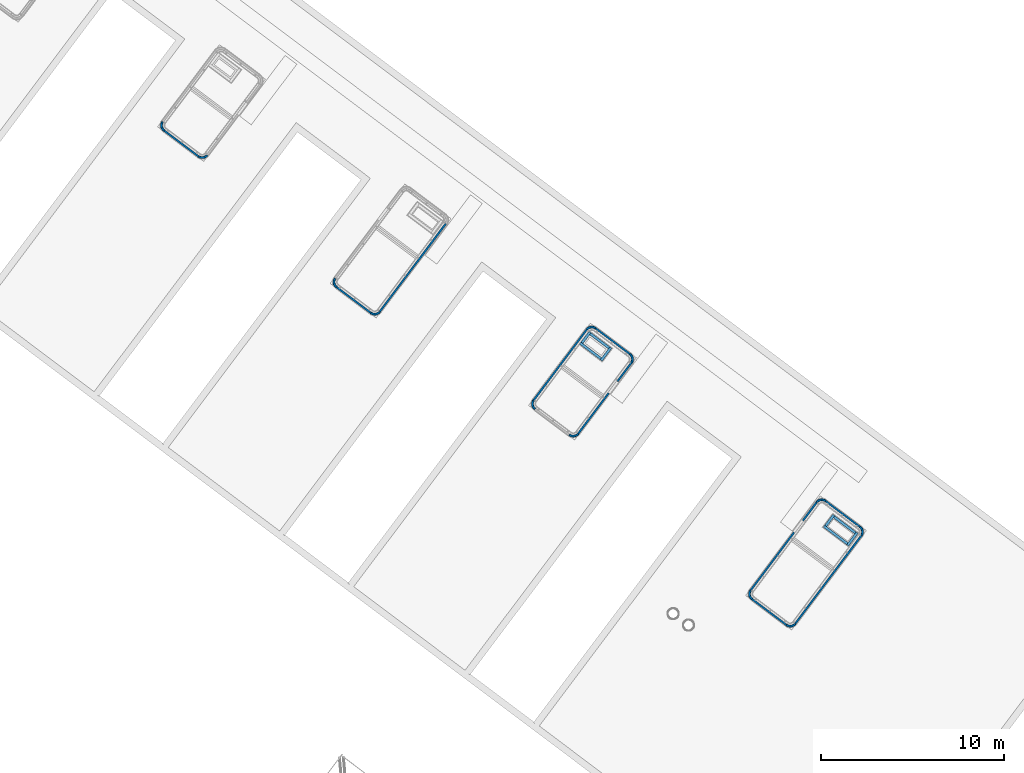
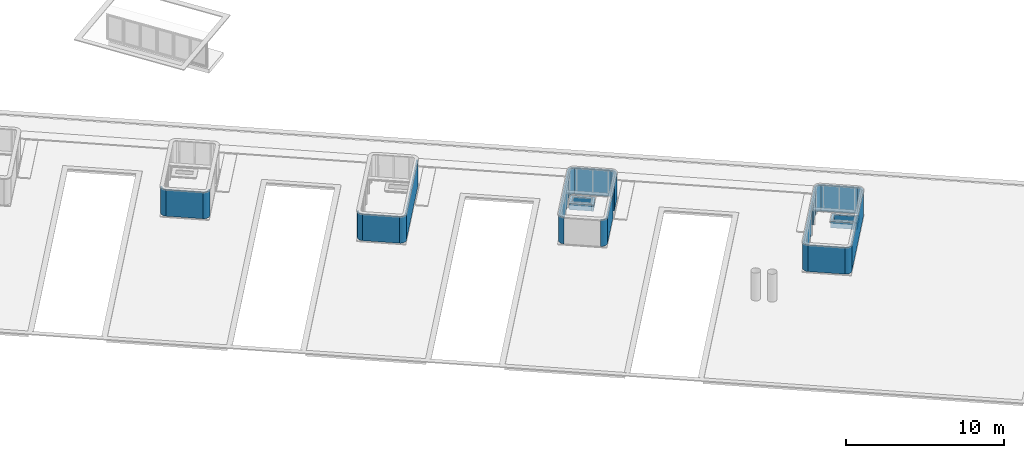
# One storey, part 20 of 28: 30 walls, 2 openings.
"""IFC2X3 building model written with IfcOpenShell, lengths in metres."""

from ifc_helpers import new_model, entity, si_unit, converted_unit, derived_unit, direction, frame, frame_2d, origin, place, context, subcontext, project, spatial, polyline, circle_curve, parameter, trimmed, segment, composite_curve, rectangle, outline, extrude, material, layer, layer_set, layer_usage, type_object, element, save


model = new_model("IFC2X3")

# Units and contexts
model_context = context("Model", 3, precision=1e-05, world=origin(), true_north=direction((6.123031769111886e-17, 1.0)))
body_context = subcontext(model_context, "Body", "Model", "MODEL_VIEW")
ifc_project = project(units=[si_unit("LENGTHUNIT", "METRE"), si_unit("AREAUNIT", "SQUARE_METRE"), si_unit("VOLUMEUNIT", "CUBIC_METRE"), converted_unit("PLANEANGLEUNIT", "DEGREE", entity("IfcRatioMeasure", 0.017453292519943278), si_unit("PLANEANGLEUNIT", "RADIAN"), dimensions=[0, 0, 0, 0, 0, 0, 0]), si_unit("MASSUNIT", "GRAM", prefix="KILO"), derived_unit("MASSDENSITYUNIT", [(si_unit("MASSUNIT", "GRAM", prefix="KILO"), 1), (si_unit("LENGTHUNIT", "METRE"), -3)]), derived_unit("IONCONCENTRATIONUNIT", [(si_unit("MASSUNIT", "GRAM", prefix="KILO"), 1), (si_unit("LENGTHUNIT", "METRE"), -3)]), derived_unit("MOMENTOFINERTIAUNIT", [(si_unit("LENGTHUNIT", "METRE"), 4)]), si_unit("TIMEUNIT", "SECOND"), si_unit("FREQUENCYUNIT", "HERTZ"), si_unit("THERMODYNAMICTEMPERATUREUNIT", "DEGREE_CELSIUS"), derived_unit("THERMALTRANSMITTANCEUNIT", [(si_unit("MASSUNIT", "GRAM", prefix="KILO"), 1), (si_unit("THERMODYNAMICTEMPERATUREUNIT", "KELVIN"), -1), (si_unit("TIMEUNIT", "SECOND"), -3)]), derived_unit("THERMALCONDUCTANCEUNIT", [(si_unit("MASSUNIT", "GRAM", prefix="KILO"), 1), (si_unit("THERMODYNAMICTEMPERATUREUNIT", "KELVIN"), -1), (si_unit("TIMEUNIT", "SECOND"), -3), (si_unit("LENGTHUNIT", "METRE"), 1)]), derived_unit("VOLUMETRICFLOWRATEUNIT", [(si_unit("LENGTHUNIT", "METRE"), 3), (si_unit("TIMEUNIT", "SECOND"), -1)]), derived_unit("MASSFLOWRATEUNIT", [(si_unit("MASSUNIT", "GRAM", prefix="KILO"), 1), (si_unit("TIMEUNIT", "SECOND"), -1)]), derived_unit("ROTATIONALFREQUENCYUNIT", [(si_unit("TIMEUNIT", "SECOND"), -1)]), si_unit("ELECTRICCURRENTUNIT", "AMPERE"), si_unit("ELECTRICVOLTAGEUNIT", "VOLT"), si_unit("POWERUNIT", "WATT"), si_unit("FORCEUNIT", "NEWTON", prefix="KILO"), si_unit("ILLUMINANCEUNIT", "LUX"), si_unit("LUMINOUSFLUXUNIT", "LUMEN"), si_unit("LUMINOUSINTENSITYUNIT", "CANDELA"), derived_unit("USERDEFINED", [(si_unit("MASSUNIT", "GRAM", prefix="KILO"), -1), (si_unit("LENGTHUNIT", "METRE"), -2), (si_unit("TIMEUNIT", "SECOND"), 3), (si_unit("LUMINOUSFLUXUNIT", "LUMEN"), 1)]), derived_unit("USERDEFINED", [(si_unit("MASSUNIT", "GRAM", prefix="KILO"), 1), (si_unit("TIMEUNIT", "SECOND"), -3), (si_unit("LENGTHUNIT", "METRE"), 3), (si_unit("ELECTRICCURRENTUNIT", "AMPERE"), -2)]), derived_unit("SOUNDPOWERUNIT", [(si_unit("MASSUNIT", "GRAM", prefix="KILO"), 1), (si_unit("TIMEUNIT", "SECOND"), -3), (si_unit("LENGTHUNIT", "METRE"), 2)]), derived_unit("SOUNDPRESSUREUNIT", [(si_unit("MASSUNIT", "GRAM", prefix="KILO"), 1), (si_unit("LENGTHUNIT", "METRE"), -1), (si_unit("TIMEUNIT", "SECOND"), -2)]), derived_unit("LINEARVELOCITYUNIT", [(si_unit("LENGTHUNIT", "METRE"), 1), (si_unit("TIMEUNIT", "SECOND"), -1)]), si_unit("PRESSUREUNIT", "PASCAL"), derived_unit("USERDEFINED", [(si_unit("MASSUNIT", "GRAM", prefix="KILO"), 1), (si_unit("LENGTHUNIT", "METRE"), -2), (si_unit("TIMEUNIT", "SECOND"), -2)]), derived_unit("LINEARFORCEUNIT", [(si_unit("MASSUNIT", "GRAM", prefix="KILO"), 1), (si_unit("TIMEUNIT", "SECOND"), -2)]), derived_unit("PLANARFORCEUNIT", [(si_unit("MASSUNIT", "GRAM", prefix="KILO"), 1), (si_unit("LENGTHUNIT", "METRE"), -1), (si_unit("TIMEUNIT", "SECOND"), -2)]), derived_unit("SPECIFICHEATCAPACITYUNIT", [(si_unit("THERMODYNAMICTEMPERATUREUNIT", "KELVIN"), -1), (si_unit("LENGTHUNIT", "METRE"), 2), (si_unit("TIMEUNIT", "SECOND"), -2)]), derived_unit("HEATINGVALUEUNIT", [(si_unit("LENGTHUNIT", "METRE"), 2), (si_unit("TIMEUNIT", "SECOND"), -2)]), derived_unit("VAPORPERMEABILITYUNIT", [(si_unit("LENGTHUNIT", "METRE"), -1), (si_unit("TIMEUNIT", "SECOND"), 1)]), derived_unit("DYNAMICVISCOSITYUNIT", [(si_unit("MASSUNIT", "GRAM", prefix="KILO"), 1), (si_unit("TIMEUNIT", "SECOND"), -1), (si_unit("LENGTHUNIT", "METRE"), -1)]), derived_unit("THERMALEXPANSIONCOEFFICIENTUNIT", [(si_unit("THERMODYNAMICTEMPERATUREUNIT", "KELVIN"), -1)]), derived_unit("MODULUSOFELASTICITYUNIT", [(si_unit("MASSUNIT", "GRAM", prefix="KILO"), 1), (si_unit("LENGTHUNIT", "METRE"), -1), (si_unit("TIMEUNIT", "SECOND"), -2)]), derived_unit("ISOTHERMALMOISTURECAPACITYUNIT", [(si_unit("LENGTHUNIT", "METRE"), 3), (si_unit("MASSUNIT", "GRAM", prefix="KILO"), -1)]), derived_unit("MOISTUREDIFFUSIVITYUNIT", [(si_unit("TIMEUNIT", "SECOND"), -1), (si_unit("LENGTHUNIT", "METRE"), 2)])], contexts=[model_context])

# Site, building, storey
site_placement = place(None, frame((0.0, 0.0, 235.0), z_axis=(0.0, 0.0, 1.0), x_axis=(-0.7996477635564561, 0.6004693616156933, 0.0)))
site = spatial("IfcSite", under=ifc_project, at=site_placement, Name="Default", CompositionType="ELEMENT")
building_placement = place(site_placement, origin())
building = spatial("IfcBuilding", under=site, at=building_placement, CompositionType="ELEMENT")
storey_placement = place(building_placement, frame((0.0, 0.0, 3.400000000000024)))
storey = spatial("IfcBuildingStorey", under=building, at=storey_placement, Name="PC- Coberta STR", CompositionType="ELEMENT", Elevation=3.400000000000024)

# Walls
ifc_material_1 = material(Name="_Ceràmica- ENV")
ifc_layer_1 = layer(ifc_material_1, 0.14)
ifc_layer_set_1 = layer_set([ifc_layer_1], Name="Muro básico:ENV- Ceràmic- 14 cm")
ifc_layer_usage_1 = layer_usage(ifc_layer_set_1, "AXIS2", "NEGATIVE", 0.07)
wall_type_1 = type_object("IfcWallType", Name="Muro básico:ENV- Ceràmic- 14 cm", PredefinedType="STANDARD", material=ifc_layer_set_1)
wall_1_placement = place(storey_placement, frame((32.91014768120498, -37.300189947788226, 0.0), z_axis=(0.0, 0.0, 1.0), x_axis=(0.0, 1.0, 0.0)))
element("IfcWallStandardCase", 1, at=wall_1_placement, inside=storey, type_object=wall_type_1, material=ifc_layer_usage_1, Name="Muro básico:ENV- Ceràmic- 14 cm", ObjectType="Muro básico:ENV- Ceràmic- 14 cm", context=body_context, shape_type="SweptSolid", body=[
    extrude(rectangle(XDim=0.8800000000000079, YDim=0.14000000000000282, at=frame_2d((0.44000000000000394, 0.0), x_axis=(-1.0, 0.0))), origin(), (0.0, 0.0, 1.0), 0.5),
])
wall_2_placement = place(storey_placement, frame((32.980147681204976, -36.490189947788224, 0.0)))
element("IfcWallStandardCase", 2, at=wall_2_placement, inside=storey, type_object=wall_type_1, material=ifc_layer_usage_1, Name="Muro básico:ENV- Ceràmic- 14 cm", ObjectType="Muro básico:ENV- Ceràmic- 14 cm", context=body_context, shape_type="SweptSolid", body=[
    extrude(rectangle(XDim=1.4200000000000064, YDim=0.14000000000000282, at=frame_2d((0.7100000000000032, 2.3592239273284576e-16), x_axis=(-1.0, 0.0))), origin(), (0.0, 0.0, 1.0), 0.5),
])
wall_3_placement = place(storey_placement, frame((34.330147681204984, -36.560189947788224, 0.0), z_axis=(0.0, 0.0, 1.0), x_axis=(0.0, -1.0, 0.0)))
element("IfcWallStandardCase", 3, at=wall_3_placement, inside=storey, type_object=wall_type_1, material=ifc_layer_usage_1, Name="Muro básico:ENV- Ceràmic- 14 cm", ObjectType="Muro básico:ENV- Ceràmic- 14 cm", context=body_context, shape_type="SweptSolid", body=[
    extrude(rectangle(XDim=0.740000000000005, YDim=0.14000000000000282, at=frame_2d((0.3700000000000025, 0.0), x_axis=(-1.0, 0.0))), origin(), (0.0, 0.0, 1.0), 0.5),
])
wall_4_placement = place(storey_placement, frame((34.260147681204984, -37.230189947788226, 0.0), z_axis=(0.0, 0.0, 1.0), x_axis=(-1.0, 0.0, 0.0)))
element("IfcWallStandardCase", 4, at=wall_4_placement, inside=storey, type_object=wall_type_1, material=ifc_layer_usage_1, Name="Muro básico:ENV- Ceràmic- 14 cm", ObjectType="Muro básico:ENV- Ceràmic- 14 cm", context=body_context, shape_type="SweptSolid", body=[
    extrude(rectangle(XDim=1.2800000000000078, YDim=0.14000000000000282, at=frame_2d((0.6400000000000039, 0.0), x_axis=(-1.0, 0.0))), origin(), (0.0, 0.0, 1.0), 0.5),
])
wall_5_placement = place(storey_placement, frame((16.040046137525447, -37.30018994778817, 0.0), z_axis=(0.0, 0.0, 1.0), x_axis=(0.0, 1.0, 0.0)))
element("IfcWallStandardCase", 5, at=wall_5_placement, inside=storey, type_object=wall_type_1, material=ifc_layer_usage_1, Name="Muro básico:ENV- Ceràmic- 14 cm", ObjectType="Muro básico:ENV- Ceràmic- 14 cm", context=body_context, shape_type="SweptSolid", body=[
    extrude(rectangle(XDim=0.8800000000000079, YDim=0.1399999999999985, at=frame_2d((0.44000000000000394, 0.0), x_axis=(-1.0, 0.0))), origin(), (0.0, 0.0, 1.0), 0.5),
])
wall_6_placement = place(storey_placement, frame((16.110046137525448, -36.49018994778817, 0.0)))
element("IfcWallStandardCase", 6, at=wall_6_placement, inside=storey, type_object=wall_type_1, material=ifc_layer_usage_1, Name="Muro básico:ENV- Ceràmic- 14 cm", ObjectType="Muro básico:ENV- Ceràmic- 14 cm", context=body_context, shape_type="SweptSolid", body=[
    extrude(rectangle(XDim=1.60110154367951, YDim=0.14000000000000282, at=frame_2d((0.800550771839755, 5.412337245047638e-16), x_axis=(-1.0, 0.0))), origin(), (0.0, 0.0, 1.0), 0.5),
])
wall_7_placement = place(storey_placement, frame((17.64114768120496, -36.56018994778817, 0.0), z_axis=(0.0, 0.0, 1.0), x_axis=(0.0, -1.0, 0.0)))
element("IfcWallStandardCase", 7, at=wall_7_placement, inside=storey, type_object=wall_type_1, material=ifc_layer_usage_1, Name="Muro básico:ENV- Ceràmic- 14 cm", ObjectType="Muro básico:ENV- Ceràmic- 14 cm", context=body_context, shape_type="SweptSolid", body=[
    extrude(rectangle(XDim=0.740000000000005, YDim=0.1399999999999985, at=frame_2d((0.3700000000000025, 0.0), x_axis=(-1.0, 0.0))), origin(), (0.0, 0.0, 1.0), 0.5),
])
wall_8_placement = place(storey_placement, frame((17.57114768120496, -37.23018994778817, 0.0), z_axis=(0.0, 0.0, 1.0), x_axis=(-1.0, 0.0, 0.0)))
element("IfcWallStandardCase", 8, at=wall_8_placement, inside=storey, type_object=wall_type_1, material=ifc_layer_usage_1, Name="Muro básico:ENV- Ceràmic- 14 cm", ObjectType="Muro básico:ENV- Ceràmic- 14 cm", context=body_context, shape_type="SweptSolid", body=[
    extrude(rectangle(XDim=1.4611015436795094, YDim=0.14000000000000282, at=frame_2d((0.7305507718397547, 0.0), x_axis=(-1.0, 0.0))), origin(), (0.0, 0.0, 1.0), 0.5),
])
ifc_material_2 = material(Name="_REV- Xapa minionda")
ifc_layer_2 = layer(ifc_material_2, 0.01)
ifc_material_3 = material(Name="_Genèric perfils, muntants, rastrells")
ifc_layer_3 = layer(ifc_material_3, 0.02)
ifc_material_4 = material(Name="_Aillament")
ifc_layer_4 = layer(ifc_material_4, 0.07)
ifc_layer_set_2 = layer_set([ifc_layer_2, ifc_layer_3, ifc_layer_4], Name="Muro básico:REV- Badalot- Xapa + Aillament")
ifc_layer_usage_2 = layer_usage(ifc_layer_set_2, "AXIS2", "NEGATIVE", 0.05)
wall_type_2 = type_object("IfcWallType", Name="Muro básico:REV- Badalot- Xapa + Aillament", PredefinedType="STANDARD", material=ifc_layer_set_2)
wall_9_placement = place(storey_placement, frame((16.11014778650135, -30.929260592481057, 0.4)))
element("IfcWallStandardCase", 9, at=wall_9_placement, inside=storey, type_object=wall_type_2, material=ifc_layer_usage_2, Name="Muro básico:REV- Badalot- Xapa + Aillament", ObjectType="Muro básico:REV- Badalot- Xapa + Aillament", context=body_context, shape_type="SweptSolid", body=[
    extrude(outline(polyline([(2.3497966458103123, -0.0499999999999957), (2.3493698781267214, 0.05000000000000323), (0.0004267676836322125, 0.05000000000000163), (0.0, -0.0499999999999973), (2.3497966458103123, -0.0499999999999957)])), origin(), (0.0, 0.0, 1.0), 2.05),
])

# Wall, opening
ifc_layer_usage_3 = layer_usage(ifc_layer_set_2, "AXIS2", "POSITIVE", -0.05)
wall_10_placement = place(storey_placement, frame((18.810046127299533, -37.303352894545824, 0.4), z_axis=(0.0, 0.0, 1.0), x_axis=(0.0, 1.0, 0.0)))
wall_10 = element("IfcWallStandardCase", 10, at=wall_10_placement, inside=storey, type_object=wall_type_2, material=ifc_layer_usage_3, Name="Muro básico:REV- Badalot- Xapa + Aillament", ObjectType="Muro básico:REV- Badalot- Xapa + Aillament", context=body_context, shape_type="SweptSolid", body=[
    extrude(outline(polyline([(0.0, -0.04999999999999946), (6.035253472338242, -0.04999999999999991), (6.034092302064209, 0.049999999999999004), (0.0011611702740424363, 0.04999999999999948), (0.0, -0.04999999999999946)])), origin(), (0.0, 0.0, 1.0), 2.05),
])
opening_1_placement = place(wall_10_placement, frame((1.2691455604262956, 1.5739999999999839, 0.0), z_axis=(0.0, 0.0, 1.0), x_axis=(0.0, -1.0, 0.0)))
element("IfcOpeningElement", 11, at=opening_1_placement, cuts=wall_10, Name="Muro básico:REV- Badalot- Xapa + Aillament", ObjectType="Opening", context=body_context, shape_type="SweptSolid", body=[
    extrude(rectangle(XDim=1.999999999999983, YDim=0.8, at=frame_2d((0.0, 4.3298697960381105e-15), x_axis=(1.0, 0.0))), frame((3.0480000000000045, 0.3999999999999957, 1.0), z_axis=(-1.0, 0.0, 0.0), x_axis=(0.0, 0.0, 1.0)), (0.0, 0.0, 1.0), 3.048),
])

# Walls
wall_11_placement = place(storey_placement, frame((18.81005785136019, -31.269182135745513, 0.4), z_axis=(0.0, 0.0, 1.0), x_axis=(0.0, -1.0, 0.0)))
element("IfcWallStandardCase", 12, at=wall_11_placement, inside=storey, type_object=wall_type_2, material=ifc_layer_usage_3, Name="Muro básico:REV- Badalot- Xapa + Aillament", ObjectType="Muro básico:REV- Badalot- Xapa + Aillament", context=body_context, shape_type="SweptSolid", body=[
    extrude(outline(composite_curve([segment(trimmed(circle_curve(frame_2d((0.007523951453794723, -0.347376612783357), x_axis=(1.0, 0.0)), 0.29745808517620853), [parameter(91.43428604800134)], [parameter(180.52716556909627)], True, "PARAMETER"), False, "CONTINUOUS"), segment(polyline([(7.845673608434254e-05, -0.05001172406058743), (-0.0010827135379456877, 0.04998827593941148)]), True, "CONTINUOUS"), segment(trimmed(circle_curve(frame_2d((0.007523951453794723, -0.347376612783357), x_axis=(1.0, 0.0)), 0.3974580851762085), [parameter(91.24079530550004)], [parameter(180.45605148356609)], True, "PARAMETER"), True, "CONTINUOUS"), segment(polyline([(-0.38992154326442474, -0.35054018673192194), (-0.2899215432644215, -0.35011341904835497)]), True, "CONTINUOUS")], self_intersect=False)), origin(), (0.0, 0.0, 1.0), 2.05),
])
wall_12_placement = place(storey_placement, frame((15.760034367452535, -31.269182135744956, 0.4), z_axis=(0.0, 0.0, 1.0), x_axis=(0.0, -1.0, 0.0)))
element("IfcWallStandardCase", 13, at=wall_12_placement, inside=storey, type_object=wall_type_2, material=ifc_layer_usage_3, Name="Muro básico:REV- Badalot- Xapa + Aillament", ObjectType="Muro básico:REV- Badalot- Xapa + Aillament", context=body_context, shape_type="SweptSolid", body=[
    extrude(outline(composite_curve([segment(trimmed(circle_curve(frame_2d((0.007523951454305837, 0.3473766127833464), x_axis=(1.0, 0.0)), 0.3974580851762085), [parameter(179.54394851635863)], [parameter(268.75920469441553)], True, "PARAMETER"), True, "CONTINUOUS"), segment(polyline([(-0.0010827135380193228, -0.04998827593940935), (7.845673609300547e-05, 0.050011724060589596)]), True, "CONTINUOUS"), segment(trimmed(circle_curve(frame_2d((0.007523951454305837, 0.3473766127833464), x_axis=(1.0, 0.0)), 0.29745808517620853), [parameter(179.472834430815)], [parameter(268.5657139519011)], True, "PARAMETER"), False, "CONTINUOUS"), segment(polyline([(-0.28992154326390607, 0.3501134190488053), (-0.3899215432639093, 0.35054018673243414)]), True, "CONTINUOUS")], self_intersect=False)), origin(), (0.0, 0.0, 1.0), 2.05),
])
wall_13_placement = place(storey_placement, frame((15.760046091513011, -37.30335289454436, 0.4), z_axis=(0.0, 0.0, 1.0), x_axis=(0.0, 1.0, 0.0)))
element("IfcWallStandardCase", 14, at=wall_13_placement, inside=storey, type_object=wall_type_2, material=ifc_layer_usage_2, Name="Muro básico:REV- Badalot- Xapa + Aillament", ObjectType="Muro básico:REV- Badalot- Xapa + Aillament", context=body_context, shape_type="SweptSolid", body=[
    extrude(outline(polyline([(6.034092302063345, -0.05000000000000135), (6.03525347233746, 0.04999999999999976), (0.0, 0.04999999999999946), (0.0011611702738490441, -0.050000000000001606), (6.034092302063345, -0.05000000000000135)])), origin(), (0.0, 0.0, 1.0), 2.05),
])
wall_14_placement = place(storey_placement, frame((16.11014778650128, -37.642191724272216, 0.4)))
element("IfcWallStandardCase", 15, at=wall_14_placement, inside=storey, type_object=wall_type_2, material=ifc_layer_usage_3, Name="Muro básico:REV- Badalot- Xapa + Aillament", ObjectType="Muro básico:REV- Badalot- Xapa + Aillament", context=body_context, shape_type="SweptSolid", body=[
    extrude(outline(polyline([(2.349369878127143, -0.04999999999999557), (2.3497966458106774, 0.050000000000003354), (0.0, 0.050000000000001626), (0.000426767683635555, -0.04999999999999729), (2.349369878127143, -0.04999999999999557)])), origin(), (0.0, 0.0, 1.0), 2.05),
])
wall_15_placement = place(storey_placement, frame((18.81005785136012, -37.302270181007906, 0.4), z_axis=(0.0, 0.0, 1.0), x_axis=(0.0, 1.0, 0.0)))
element("IfcWallStandardCase", 16, at=wall_15_placement, inside=storey, type_object=wall_type_2, material=ifc_layer_usage_3, Name="Muro básico:REV- Badalot- Xapa + Aillament", ObjectType="Muro básico:REV- Badalot- Xapa + Aillament", context=body_context, shape_type="SweptSolid", body=[
    extrude(outline(composite_curve([segment(polyline([(-0.0010827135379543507, -0.049988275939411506), (7.845673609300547e-05, 0.05001172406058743)]), True, "CONTINUOUS"), segment(trimmed(circle_curve(frame_2d((0.007523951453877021, 0.3473766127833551), x_axis=(1.0, 0.0)), 0.29745808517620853), [parameter(179.47283443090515)], [parameter(268.5657139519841)], True, "PARAMETER"), False, "CONTINUOUS"), segment(polyline([(-0.28992154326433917, 0.350113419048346), (-0.3899215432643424, 0.35054018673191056)]), True, "CONTINUOUS"), segment(trimmed(circle_curve(frame_2d((0.007523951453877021, 0.3473766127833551), x_axis=(1.0, 0.0)), 0.3974580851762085), [parameter(179.5439485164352)], [parameter(268.7592046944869)], True, "PARAMETER"), True, "CONTINUOUS")], self_intersect=False)), origin(), (0.0, 0.0, 1.0), 2.05),
])
wall_16_placement = place(storey_placement, frame((15.760034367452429, -37.30227018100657, 0.4), z_axis=(0.0, 0.0, 1.0), x_axis=(0.0, 1.0, 0.0)))
element("IfcWallStandardCase", 17, at=wall_16_placement, inside=storey, type_object=wall_type_2, material=ifc_layer_usage_3, Name="Muro básico:REV- Badalot- Xapa + Aillament", ObjectType="Muro básico:REV- Badalot- Xapa + Aillament", context=body_context, shape_type="SweptSolid", body=[
    extrude(outline(composite_curve([segment(trimmed(circle_curve(frame_2d((0.007523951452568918, -0.3473766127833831), x_axis=(1.0, 0.0)), 0.29745808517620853), [parameter(91.4342860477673)], [parameter(180.52716556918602)], True, "PARAMETER"), False, "CONTINUOUS"), segment(polyline([(7.845673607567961e-05, -0.0500117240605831), (-0.001082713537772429, 0.04998827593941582)]), True, "CONTINUOUS"), segment(trimmed(circle_curve(frame_2d((0.007523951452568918, -0.3473766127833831), x_axis=(1.0, 0.0)), 0.3974580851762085), [parameter(91.24079530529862)], [parameter(180.45605148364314)], True, "PARAMETER"), True, "CONTINUOUS"), segment(polyline([(-0.3899215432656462, -0.35054018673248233), (-0.28992154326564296, -0.3501134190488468)]), True, "CONTINUOUS")], self_intersect=False)), origin(), (0.0, 0.0, 1.0), 2.05),
])
wall_17_placement = place(storey_placement, frame((34.56018545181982, -37.303352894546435, 0.4), z_axis=(0.0, 0.0, 1.0), x_axis=(0.0, 1.0, 0.0)))
element("IfcWallStandardCase", 18, at=wall_17_placement, inside=storey, type_object=wall_type_2, material=ifc_layer_usage_3, Name="Muro básico:REV- Badalot- Xapa + Aillament", ObjectType="Muro básico:REV- Badalot- Xapa + Aillament", context=body_context, shape_type="SweptSolid", body=[
    extrude(outline(polyline([(4.849322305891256, -0.04999999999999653), (4.848161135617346, 0.050000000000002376), (0.001161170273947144, 0.05000000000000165), (0.0, -0.0499999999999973), (4.849322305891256, -0.04999999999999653)])), origin(), (0.0, 0.0, 1.0), 2.05),
])
wall_18_placement = place(storey_placement, frame((34.56019717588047, -32.45511330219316, 0.4), z_axis=(0.0, 0.0, 1.0), x_axis=(0.0, -1.0, 0.0)))
element("IfcWallStandardCase", 19, at=wall_18_placement, inside=storey, type_object=wall_type_2, material=ifc_layer_usage_3, Name="Muro básico:REV- Badalot- Xapa + Aillament", ObjectType="Muro básico:REV- Badalot- Xapa + Aillament", context=body_context, shape_type="SweptSolid", body=[
    extrude(outline(composite_curve([segment(trimmed(circle_curve(frame_2d((0.007523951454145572, -0.3473766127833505), x_axis=(1.0, 0.0)), 0.29745808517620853), [parameter(91.43428604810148)], [parameter(180.52716556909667)], True, "PARAMETER"), False, "CONTINUOUS"), segment(polyline([(7.845673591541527e-05, -0.05001172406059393), (-0.0010827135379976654, 0.04998827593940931)]), True, "CONTINUOUS"), segment(trimmed(circle_curve(frame_2d((0.007523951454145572, -0.3473766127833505), x_axis=(1.0, 0.0)), 0.3974580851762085), [parameter(91.24079530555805)], [parameter(180.45605148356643)], True, "PARAMETER"), True, "CONTINUOUS"), segment(polyline([(-0.3899215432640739, -0.35054018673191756), (-0.28992154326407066, -0.35011341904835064)]), True, "CONTINUOUS")], self_intersect=False)), origin(), (0.0, 0.0, 1.0), 2.05),
])
wall_19_placement = place(storey_placement, frame((31.51017369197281, -32.45511330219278, 0.4), z_axis=(0.0, 0.0, 1.0), x_axis=(0.0, -1.0, 0.0)))
element("IfcWallStandardCase", 20, at=wall_19_placement, inside=storey, type_object=wall_type_2, material=ifc_layer_usage_3, Name="Muro básico:REV- Badalot- Xapa + Aillament", ObjectType="Muro básico:REV- Badalot- Xapa + Aillament", context=body_context, shape_type="SweptSolid", body=[
    extrude(outline(composite_curve([segment(trimmed(circle_curve(frame_2d((0.007523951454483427, 0.3473766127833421), x_axis=(1.0, 0.0)), 0.3974580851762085), [parameter(179.54394851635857)], [parameter(268.7592046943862)], True, "PARAMETER"), True, "CONTINUOUS"), segment(polyline([(-0.0010827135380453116, -0.04998827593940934), (7.845673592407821e-05, 0.05001172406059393)]), True, "CONTINUOUS"), segment(trimmed(circle_curve(frame_2d((0.007523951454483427, 0.3473766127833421), x_axis=(1.0, 0.0)), 0.29745808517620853), [parameter(179.4728344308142)], [parameter(268.5657139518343)], True, "PARAMETER"), False, "CONTINUOUS"), segment(polyline([(-0.28992154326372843, 0.3501134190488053), (-0.3899215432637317, 0.35054018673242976)]), True, "CONTINUOUS")], self_intersect=False)), origin(), (0.0, 0.0, 1.0), 2.05),
])

# Wall, opening
wall_20_placement = place(storey_placement, frame((31.510185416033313, -37.30335289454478, 0.4), z_axis=(0.0, 0.0, 1.0), x_axis=(0.0, 1.0, 0.0)))
wall_20 = element("IfcWallStandardCase", 21, at=wall_20_placement, inside=storey, type_object=wall_type_2, material=ifc_layer_usage_2, Name="Muro básico:REV- Badalot- Xapa + Aillament", ObjectType="Muro básico:REV- Badalot- Xapa + Aillament", context=body_context, shape_type="SweptSolid", body=[
    extrude(outline(polyline([(0.0011611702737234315, -0.04999999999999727), (4.84816113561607, -0.04999999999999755), (4.849322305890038, 0.0500000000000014), (0.0, 0.050000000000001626), (0.0011611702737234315, -0.04999999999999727)])), origin(), (0.0, 0.0, 1.0), 2.05),
])
opening_2_placement = place(wall_20_placement, frame((1.2691455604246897, 1.4739999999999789, 0.0), z_axis=(0.0, 0.0, 1.0), x_axis=(0.0, -1.0, 0.0)))
element("IfcOpeningElement", 22, at=opening_2_placement, cuts=wall_20, Name="Muro básico:REV- Badalot- Xapa + Aillament", ObjectType="Opening", context=body_context, shape_type="SweptSolid", body=[
    extrude(rectangle(XDim=1.999999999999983, YDim=0.8, at=frame_2d((0.0, 0.0), x_axis=(0.0, 1.0))), frame((3.048000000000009, 0.4, 1.0), z_axis=(-1.0, 0.0, 0.0), x_axis=(0.0, -1.0, 0.0)), (0.0, 0.0, 1.0), 3.048),
])

# Walls
wall_21_placement = place(storey_placement, frame((31.860287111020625, -37.64219172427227, 0.4)))
element("IfcWallStandardCase", 23, at=wall_21_placement, inside=storey, type_object=wall_type_2, material=ifc_layer_usage_3, Name="Muro básico:REV- Badalot- Xapa + Aillament", ObjectType="Muro básico:REV- Badalot- Xapa + Aillament", context=body_context, shape_type="SweptSolid", body=[
    extrude(outline(polyline([(2.3493698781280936, -0.04999999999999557), (2.3497966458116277, 0.050000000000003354), (0.0, 0.050000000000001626), (0.00042676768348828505, -0.04999999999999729), (2.3493698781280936, -0.04999999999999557)])), origin(), (0.0, 0.0, 1.0), 2.05),
])
wall_22_placement = place(storey_placement, frame((34.56019717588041, -37.302270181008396, 0.4), z_axis=(0.0, 0.0, 1.0), x_axis=(0.0, 1.0, 0.0)))
element("IfcWallStandardCase", 24, at=wall_22_placement, inside=storey, type_object=wall_type_2, material=ifc_layer_usage_3, Name="Muro básico:REV- Badalot- Xapa + Aillament", ObjectType="Muro básico:REV- Badalot- Xapa + Aillament", context=body_context, shape_type="SweptSolid", body=[
    extrude(outline(composite_curve([segment(trimmed(circle_curve(frame_2d((0.007523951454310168, 0.3473766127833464), x_axis=(1.0, 0.0)), 0.3974580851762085), [parameter(179.54394851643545)], [parameter(268.7592046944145)], True, "PARAMETER"), True, "CONTINUOUS"), segment(polyline([(-0.0010827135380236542, -0.04998827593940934), (7.845673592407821e-05, 0.05001172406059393)]), True, "CONTINUOUS"), segment(trimmed(circle_curve(frame_2d((0.007523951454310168, 0.3473766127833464), x_axis=(1.0, 0.0)), 0.29745808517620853), [parameter(179.47283443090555)], [parameter(268.56571395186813)], True, "PARAMETER"), False, "CONTINUOUS"), segment(polyline([(-0.28992154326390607, 0.35011341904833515), (-0.3899215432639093, 0.35054018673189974)]), True, "CONTINUOUS")], self_intersect=False)), origin(), (0.0, 0.0, 1.0), 2.05),
])
wall_23_placement = place(storey_placement, frame((31.510173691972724, -37.30227018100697, 0.4), z_axis=(0.0, 0.0, 1.0), x_axis=(0.0, 1.0, 0.0)))
element("IfcWallStandardCase", 25, at=wall_23_placement, inside=storey, type_object=wall_type_2, material=ifc_layer_usage_3, Name="Muro básico:REV- Badalot- Xapa + Aillament", ObjectType="Muro básico:REV- Badalot- Xapa + Aillament", context=body_context, shape_type="SweptSolid", body=[
    extrude(outline(composite_curve([segment(trimmed(circle_curve(frame_2d((0.007523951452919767, -0.3473766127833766), x_axis=(1.0, 0.0)), 0.29745808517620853), [parameter(91.43428604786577)], [parameter(180.5271655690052)], True, "PARAMETER"), False, "CONTINUOUS"), segment(polyline([(7.84567359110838e-05, -0.050011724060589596), (-0.001082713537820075, 0.04998827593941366)]), True, "CONTINUOUS"), segment(trimmed(circle_curve(frame_2d((0.007523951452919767, -0.3473766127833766), x_axis=(1.0, 0.0)), 0.3974580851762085), [parameter(91.24079530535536)], [parameter(180.4560514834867)], True, "PARAMETER"), True, "CONTINUOUS"), segment(polyline([(-0.38992154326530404, -0.35054018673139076), (-0.2899215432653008, -0.3501134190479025)]), True, "CONTINUOUS")], self_intersect=False)), origin(), (0.0, 0.0, 1.0), 2.05),
])
wall_24_placement = place(storey_placement, frame((57.26028711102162, -32.11519175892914, 0.4)))
element("IfcWallStandardCase", 26, at=wall_24_placement, inside=storey, type_object=wall_type_2, material=ifc_layer_usage_2, Name="Muro básico:REV- Badalot- Xapa + Aillament", ObjectType="Muro básico:REV- Badalot- Xapa + Aillament", context=body_context, shape_type="SweptSolid", body=[
    extrude(outline(polyline([(2.349796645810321, -0.0499999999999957), (2.3493698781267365, 0.05000000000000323), (0.0004267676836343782, 0.05000000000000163), (0.0, -0.0499999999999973), (2.349796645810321, -0.0499999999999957)])), origin(), (0.0, 0.0, 1.0), 2.05),
])
wall_25_placement = place(storey_placement, frame((59.96019717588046, -32.455113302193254, 0.4), z_axis=(0.0, 0.0, 1.0), x_axis=(0.0, -1.0, 0.0)))
element("IfcWallStandardCase", 27, at=wall_25_placement, inside=storey, type_object=wall_type_2, material=ifc_layer_usage_3, Name="Muro básico:REV- Badalot- Xapa + Aillament", ObjectType="Muro básico:REV- Badalot- Xapa + Aillament", context=body_context, shape_type="SweptSolid", body=[
    extrude(outline(composite_curve([segment(trimmed(circle_curve(frame_2d((0.007523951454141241, -0.3473766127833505), x_axis=(1.0, 0.0)), 0.29745808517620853), [parameter(91.43428604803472)], [parameter(180.5271655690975)], True, "PARAMETER"), False, "CONTINUOUS"), segment(polyline([(7.845673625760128e-05, -0.050011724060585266), (-0.0010827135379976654, 0.04998827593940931)]), True, "CONTINUOUS"), segment(trimmed(circle_curve(frame_2d((0.007523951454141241, -0.3473766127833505), x_axis=(1.0, 0.0)), 0.3974580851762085), [parameter(91.24079530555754)], [parameter(180.45605148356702)], True, "PARAMETER"), True, "CONTINUOUS"), segment(polyline([(-0.38992154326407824, -0.3505401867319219), (-0.289921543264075, -0.35011341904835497)]), True, "CONTINUOUS")], self_intersect=False)), origin(), (0.0, 0.0, 1.0), 2.05),
])
wall_26_placement = place(storey_placement, frame((56.91017369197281, -32.45511330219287, 0.4), z_axis=(0.0, 0.0, 1.0), x_axis=(0.0, -1.0, 0.0)))
element("IfcWallStandardCase", 28, at=wall_26_placement, inside=storey, type_object=wall_type_2, material=ifc_layer_usage_3, Name="Muro básico:REV- Badalot- Xapa + Aillament", ObjectType="Muro básico:REV- Badalot- Xapa + Aillament", context=body_context, shape_type="SweptSolid", body=[
    extrude(outline(composite_curve([segment(trimmed(circle_curve(frame_2d((0.007523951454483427, 0.3473766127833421), x_axis=(1.0, 0.0)), 0.3974580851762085), [parameter(179.54394851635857)], [parameter(268.75920469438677)], True, "PARAMETER"), True, "CONTINUOUS"), segment(polyline([(-0.0010827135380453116, -0.04998827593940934), (7.845673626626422e-05, 0.05001172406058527)]), True, "CONTINUOUS"), segment(trimmed(circle_curve(frame_2d((0.007523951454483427, 0.3473766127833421), x_axis=(1.0, 0.0)), 0.29745808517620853), [parameter(179.47283443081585)], [parameter(268.56571395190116)], True, "PARAMETER"), False, "CONTINUOUS"), segment(polyline([(-0.28992154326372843, 0.3501134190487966), (-0.3899215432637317, 0.35054018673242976)]), True, "CONTINUOUS")], self_intersect=False)), origin(), (0.0, 0.0, 1.0), 2.05),
])
wall_27_placement = place(storey_placement, frame((44.560147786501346, -30.929260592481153, 0.4)))
element("IfcWallStandardCase", 29, at=wall_27_placement, inside=storey, type_object=wall_type_2, material=ifc_layer_usage_2, Name="Muro básico:REV- Badalot- Xapa + Aillament", ObjectType="Muro básico:REV- Badalot- Xapa + Aillament", context=body_context, shape_type="SweptSolid", body=[
    extrude(outline(polyline([(2.349796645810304, -0.0499999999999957), (2.349369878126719, 0.05000000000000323), (0.0004267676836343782, 0.05000000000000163), (0.0, -0.0499999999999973), (2.349796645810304, -0.0499999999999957)])), origin(), (0.0, 0.0, 1.0), 2.05),
])
wall_28_placement = place(storey_placement, frame((47.26005785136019, -31.26918213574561, 0.4), z_axis=(0.0, 0.0, 1.0), x_axis=(0.0, -1.0, 0.0)))
element("IfcWallStandardCase", 30, at=wall_28_placement, inside=storey, type_object=wall_type_2, material=ifc_layer_usage_3, Name="Muro básico:REV- Badalot- Xapa + Aillament", ObjectType="Muro básico:REV- Badalot- Xapa + Aillament", context=body_context, shape_type="SweptSolid", body=[
    extrude(outline(composite_curve([segment(trimmed(circle_curve(frame_2d((0.007523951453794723, -0.3473766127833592), x_axis=(1.0, 0.0)), 0.29745808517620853), [parameter(91.43428604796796)], [parameter(180.5271655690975)], True, "PARAMETER"), False, "CONTINUOUS"), segment(polyline([(7.845673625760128e-05, -0.050011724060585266), (-0.0010827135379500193, 0.04998827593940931)]), True, "CONTINUOUS"), segment(trimmed(circle_curve(frame_2d((0.007523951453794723, -0.3473766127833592), x_axis=(1.0, 0.0)), 0.3974580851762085), [parameter(91.24079530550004)], [parameter(180.45605148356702)], True, "PARAMETER"), True, "CONTINUOUS"), segment(polyline([(-0.38992154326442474, -0.3505401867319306), (-0.2899215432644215, -0.3501134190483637)]), True, "CONTINUOUS")], self_intersect=False)), origin(), (0.0, 0.0, 1.0), 2.05),
])
wall_29_placement = place(storey_placement, frame((44.21003436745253, -31.26918213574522, 0.4), z_axis=(0.0, 0.0, 1.0), x_axis=(0.0, -1.0, 0.0)))
element("IfcWallStandardCase", 31, at=wall_29_placement, inside=storey, type_object=wall_type_2, material=ifc_layer_usage_3, Name="Muro básico:REV- Badalot- Xapa + Aillament", ObjectType="Muro básico:REV- Badalot- Xapa + Aillament", context=body_context, shape_type="SweptSolid", body=[
    extrude(outline(composite_curve([segment(trimmed(circle_curve(frame_2d((0.007523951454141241, 0.34737661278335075), x_axis=(1.0, 0.0)), 0.3974580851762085), [parameter(179.54394851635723)], [parameter(268.7592046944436)], True, "PARAMETER"), True, "CONTINUOUS"), segment(polyline([(-0.0010827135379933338, -0.04998827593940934), (7.845673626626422e-05, 0.050011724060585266)]), True, "CONTINUOUS"), segment(trimmed(circle_curve(frame_2d((0.007523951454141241, 0.34737661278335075), x_axis=(1.0, 0.0)), 0.29745808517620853), [parameter(179.4728344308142)], [parameter(268.56571395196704)], True, "PARAMETER"), False, "CONTINUOUS"), segment(polyline([(-0.28992154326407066, 0.35011341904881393), (-0.3899215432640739, 0.35054018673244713)]), True, "CONTINUOUS")], self_intersect=False)), origin(), (0.0, 0.0, 1.0), 2.05),
])
wall_30_placement = place(storey_placement, frame((44.21004609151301, -37.30335289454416, 0.4), z_axis=(0.0, 0.0, 1.0), x_axis=(0.0, 1.0, 0.0)))
element("IfcWallStandardCase", 32, at=wall_30_placement, inside=storey, type_object=wall_type_2, material=ifc_layer_usage_2, Name="Muro básico:REV- Badalot- Xapa + Aillament", ObjectType="Muro básico:REV- Badalot- Xapa + Aillament", context=body_context, shape_type="SweptSolid", body=[
    extrude(outline(polyline([(6.034092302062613, -0.05000000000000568), (6.035253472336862, 0.049999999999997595), (0.0, 0.0499999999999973), (0.0011611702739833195, -0.050000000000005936), (6.034092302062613, -0.05000000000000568)])), origin(), (0.0, 0.0, 1.0), 2.05),
])

save(model, "model.ifc")
